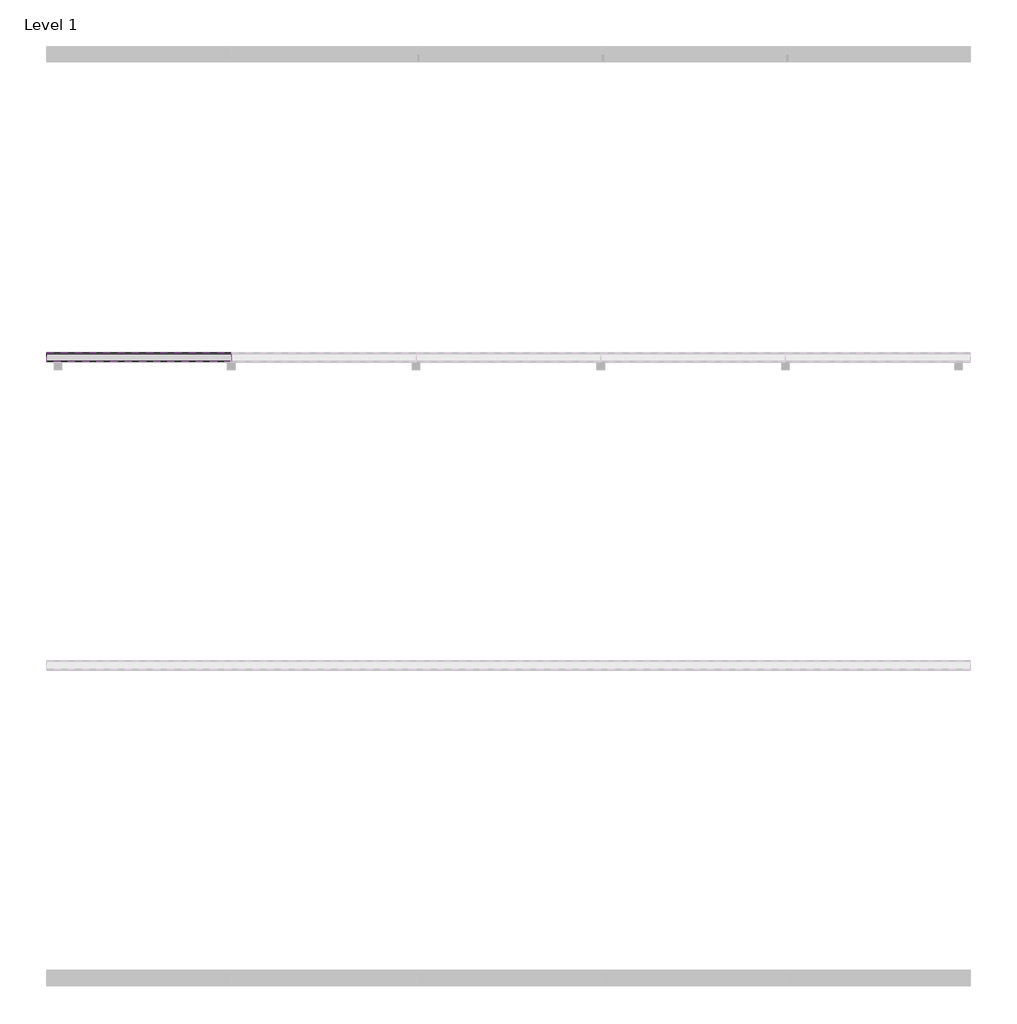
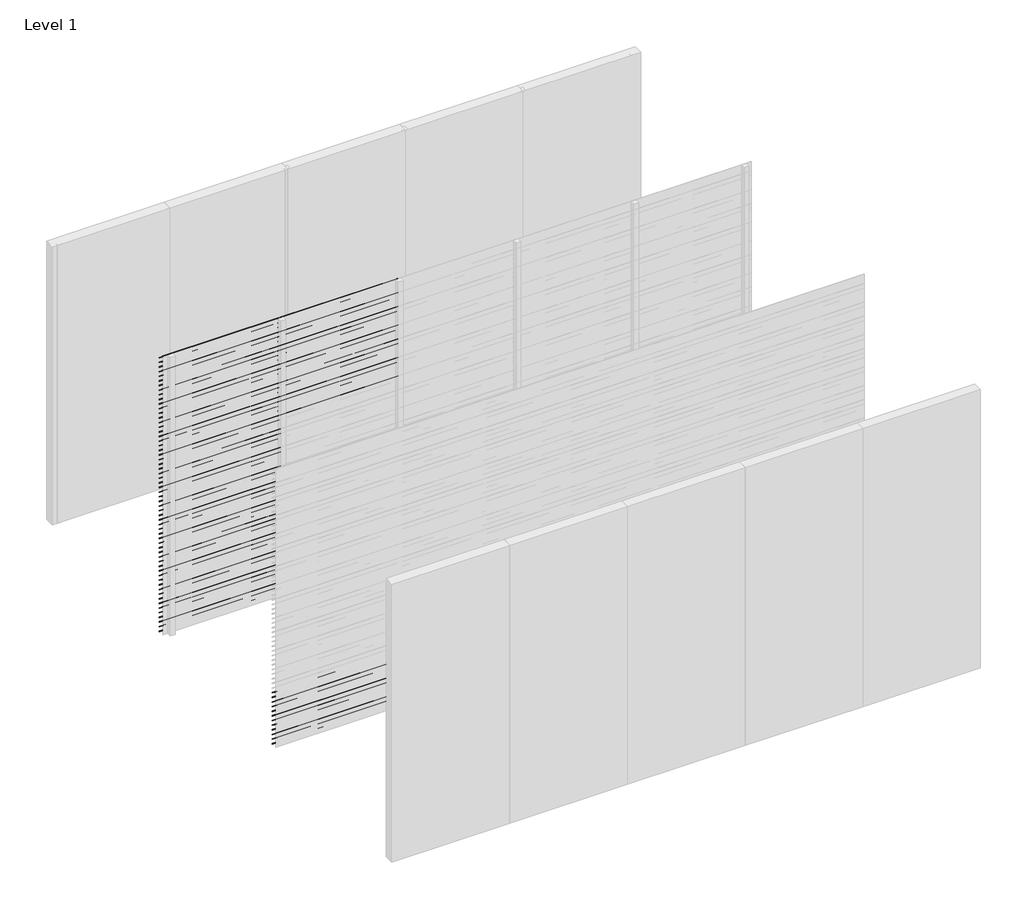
# One storey, part 10 of 16: 94 proxies.
"""IFC4 building model written with IfcOpenShell, lengths in millimetres."""

from ifc_helpers import new_model, si_unit, frame, origin, place, context, project, spatial, polyline, outline, extrude, element, save

model = new_model("IFC4")

# Units and contexts
model_context = context("Model", 3, world=origin())
ifc_project = project(units=[si_unit("LENGTHUNIT", "METRE", prefix="MILLI")], contexts=[model_context])

# Site, building, storey
site = spatial("IfcSite", under=ifc_project)
building = spatial("IfcBuilding", under=site)
storey = spatial("IfcBuildingStorey", under=building, Name="Level 1", Elevation=0.0)

# Proxies
placement = place(None, origin())
element("IfcBuildingElementProxy", 1, Name="Wall Sweeps", at=placement, inside=storey, context=model_context, shape_type="SweptSolid", body=[
    extrude(outline(polyline([(-5995.0, 3000.0), (-5995.0, 2998.0), (-5939.0, 2954.0), (-5939.0, 2946.0), (-5997.0, 2991.5714286), (-5997.0, 3000.0), (-5995.0, 3000.0)])), frame((0.0, 0.0, 0.0), z_axis=(1.0, 0.0, 0.0), x_axis=(0.0, 1.0, 0.0)), (0.0, 0.0, 1.0), 1200.0),
])
element("IfcBuildingElementProxy", 2, Name="Wall Sweeps", at=placement, inside=storey, context=model_context, shape_type="SweptSolid", body=[
    extrude(outline(polyline([(-5995.0, 2950.0), (-5995.0, 2948.0), (-5939.0, 2904.0), (-5939.0, 2896.0), (-5997.0, 2941.5714286), (-5997.0, 2950.0), (-5995.0, 2950.0)])), frame((0.0, 0.0, 0.0), z_axis=(1.0, 0.0, 0.0), x_axis=(0.0, 1.0, 0.0)), (0.0, 0.0, 1.0), 1200.0),
])
element("IfcBuildingElementProxy", 3, Name="Wall Sweeps", at=placement, inside=storey, context=model_context, shape_type="SweptSolid", body=[
    extrude(outline(polyline([(-5995.0, 2900.0), (-5995.0, 2898.0), (-5939.0, 2854.0), (-5939.0, 2846.0), (-5997.0, 2891.5714286), (-5997.0, 2900.0), (-5995.0, 2900.0)])), frame((0.0, 0.0, 0.0), z_axis=(1.0, 0.0, 0.0), x_axis=(0.0, 1.0, 0.0)), (0.0, 0.0, 1.0), 1200.0),
])
element("IfcBuildingElementProxy", 4, Name="Wall Sweeps", at=placement, inside=storey, context=model_context, shape_type="SweptSolid", body=[
    extrude(outline(polyline([(-5995.0, 2850.0), (-5995.0, 2848.0), (-5939.0, 2804.0), (-5939.0, 2796.0), (-5997.0, 2841.5714286), (-5997.0, 2850.0), (-5995.0, 2850.0)])), frame((0.0, 0.0, 0.0), z_axis=(1.0, 0.0, 0.0), x_axis=(0.0, 1.0, 0.0)), (0.0, 0.0, 1.0), 1200.0),
])
element("IfcBuildingElementProxy", 5, Name="Wall Sweeps", at=placement, inside=storey, context=model_context, shape_type="SweptSolid", body=[
    extrude(outline(polyline([(-5995.0, 2800.0), (-5995.0, 2798.0), (-5939.0, 2754.0), (-5939.0, 2746.0), (-5997.0, 2791.5714286), (-5997.0, 2800.0), (-5995.0, 2800.0)])), frame((0.0, 0.0, 0.0), z_axis=(1.0, 0.0, 0.0), x_axis=(0.0, 1.0, 0.0)), (0.0, 0.0, 1.0), 1200.0),
])
element("IfcBuildingElementProxy", 6, Name="Wall Sweeps", at=placement, inside=storey, context=model_context, shape_type="SweptSolid", body=[
    extrude(outline(polyline([(-5995.0, 2750.0), (-5995.0, 2748.0), (-5939.0, 2704.0), (-5939.0, 2696.0), (-5997.0, 2741.5714286), (-5997.0, 2750.0), (-5995.0, 2750.0)])), frame((0.0, 0.0, 0.0), z_axis=(1.0, 0.0, 0.0), x_axis=(0.0, 1.0, 0.0)), (0.0, 0.0, 1.0), 1200.0),
])
element("IfcBuildingElementProxy", 7, Name="Wall Sweeps", at=placement, inside=storey, context=model_context, shape_type="SweptSolid", body=[
    extrude(outline(polyline([(-5995.0, 2700.0), (-5995.0, 2698.0), (-5939.0, 2654.0), (-5939.0, 2646.0), (-5997.0, 2691.5714286), (-5997.0, 2700.0), (-5995.0, 2700.0)])), frame((0.0, 0.0, 0.0), z_axis=(1.0, 0.0, 0.0), x_axis=(0.0, 1.0, 0.0)), (0.0, 0.0, 1.0), 1200.0),
])
element("IfcBuildingElementProxy", 8, Name="Wall Sweeps", at=placement, inside=storey, context=model_context, shape_type="SweptSolid", body=[
    extrude(outline(polyline([(-5995.0, 2650.0), (-5995.0, 2648.0), (-5939.0, 2604.0), (-5939.0, 2596.0), (-5997.0, 2641.5714286), (-5997.0, 2650.0), (-5995.0, 2650.0)])), frame((0.0, 0.0, 0.0), z_axis=(1.0, 0.0, 0.0), x_axis=(0.0, 1.0, 0.0)), (0.0, 0.0, 1.0), 1200.0),
])
element("IfcBuildingElementProxy", 9, Name="Wall Sweeps", at=placement, inside=storey, context=model_context, shape_type="SweptSolid", body=[
    extrude(outline(polyline([(-5995.0, 2600.0), (-5995.0, 2598.0), (-5939.0, 2554.0), (-5939.0, 2546.0), (-5997.0, 2591.5714286), (-5997.0, 2600.0), (-5995.0, 2600.0)])), frame((0.0, 0.0, 0.0), z_axis=(1.0, 0.0, 0.0), x_axis=(0.0, 1.0, 0.0)), (0.0, 0.0, 1.0), 1200.0),
])
element("IfcBuildingElementProxy", 10, Name="Wall Sweeps", at=placement, inside=storey, context=model_context, shape_type="SweptSolid", body=[
    extrude(outline(polyline([(-5995.0, 2550.0), (-5995.0, 2548.0), (-5939.0, 2504.0), (-5939.0, 2496.0), (-5997.0, 2541.5714286), (-5997.0, 2550.0), (-5995.0, 2550.0)])), frame((0.0, 0.0, 0.0), z_axis=(1.0, 0.0, 0.0), x_axis=(0.0, 1.0, 0.0)), (0.0, 0.0, 1.0), 1200.0),
])
element("IfcBuildingElementProxy", 11, Name="Wall Sweeps", at=placement, inside=storey, context=model_context, shape_type="SweptSolid", body=[
    extrude(outline(polyline([(-5995.0, 2500.0), (-5995.0, 2498.0), (-5939.0, 2454.0), (-5939.0, 2446.0), (-5997.0, 2491.5714286), (-5997.0, 2500.0), (-5995.0, 2500.0)])), frame((0.0, 0.0, 0.0), z_axis=(1.0, 0.0, 0.0), x_axis=(0.0, 1.0, 0.0)), (0.0, 0.0, 1.0), 1200.0),
])
element("IfcBuildingElementProxy", 12, Name="Wall Sweeps", at=placement, inside=storey, context=model_context, shape_type="SweptSolid", body=[
    extrude(outline(polyline([(-5995.0, 2450.0), (-5995.0, 2448.0), (-5939.0, 2404.0), (-5939.0, 2396.0), (-5997.0, 2441.5714286), (-5997.0, 2450.0), (-5995.0, 2450.0)])), frame((0.0, 0.0, 0.0), z_axis=(1.0, 0.0, 0.0), x_axis=(0.0, 1.0, 0.0)), (0.0, 0.0, 1.0), 1200.0),
])
element("IfcBuildingElementProxy", 13, Name="Wall Sweeps", at=placement, inside=storey, context=model_context, shape_type="SweptSolid", body=[
    extrude(outline(polyline([(-5995.0, 2400.0), (-5995.0, 2398.0), (-5939.0, 2354.0), (-5939.0, 2346.0), (-5997.0, 2391.5714286), (-5997.0, 2400.0), (-5995.0, 2400.0)])), frame((0.0, 0.0, 0.0), z_axis=(1.0, 0.0, 0.0), x_axis=(0.0, 1.0, 0.0)), (0.0, 0.0, 1.0), 1200.0),
])
element("IfcBuildingElementProxy", 14, Name="Wall Sweeps", at=placement, inside=storey, context=model_context, shape_type="SweptSolid", body=[
    extrude(outline(polyline([(-5995.0, 2350.0), (-5995.0, 2348.0), (-5939.0, 2304.0), (-5939.0, 2296.0), (-5997.0, 2341.5714286), (-5997.0, 2350.0), (-5995.0, 2350.0)])), frame((0.0, 0.0, 0.0), z_axis=(1.0, 0.0, 0.0), x_axis=(0.0, 1.0, 0.0)), (0.0, 0.0, 1.0), 1200.0),
])
element("IfcBuildingElementProxy", 15, Name="Wall Sweeps", at=placement, inside=storey, context=model_context, shape_type="SweptSolid", body=[
    extrude(outline(polyline([(-5995.0, 2300.0), (-5995.0, 2298.0), (-5939.0, 2254.0), (-5939.0, 2246.0), (-5997.0, 2291.5714286), (-5997.0, 2300.0), (-5995.0, 2300.0)])), frame((0.0, 0.0, 0.0), z_axis=(1.0, 0.0, 0.0), x_axis=(0.0, 1.0, 0.0)), (0.0, 0.0, 1.0), 1200.0),
])
element("IfcBuildingElementProxy", 16, Name="Wall Sweeps", at=placement, inside=storey, context=model_context, shape_type="SweptSolid", body=[
    extrude(outline(polyline([(-5995.0, 2250.0), (-5995.0, 2248.0), (-5939.0, 2204.0), (-5939.0, 2196.0), (-5997.0, 2241.5714286), (-5997.0, 2250.0), (-5995.0, 2250.0)])), frame((0.0, 0.0, 0.0), z_axis=(1.0, 0.0, 0.0), x_axis=(0.0, 1.0, 0.0)), (0.0, 0.0, 1.0), 1200.0),
])
element("IfcBuildingElementProxy", 17, Name="Wall Sweeps", at=placement, inside=storey, context=model_context, shape_type="SweptSolid", body=[
    extrude(outline(polyline([(-5995.0, 2200.0), (-5995.0, 2198.0), (-5939.0, 2154.0), (-5939.0, 2146.0), (-5997.0, 2191.5714286), (-5997.0, 2200.0), (-5995.0, 2200.0)])), frame((0.0, 0.0, 0.0), z_axis=(1.0, 0.0, 0.0), x_axis=(0.0, 1.0, 0.0)), (0.0, 0.0, 1.0), 1200.0),
])
element("IfcBuildingElementProxy", 18, Name="Wall Sweeps", at=placement, inside=storey, context=model_context, shape_type="SweptSolid", body=[
    extrude(outline(polyline([(-5995.0, 2150.0), (-5995.0, 2148.0), (-5939.0, 2104.0), (-5939.0, 2096.0), (-5997.0, 2141.5714286), (-5997.0, 2150.0), (-5995.0, 2150.0)])), frame((0.0, 0.0, 0.0), z_axis=(1.0, 0.0, 0.0), x_axis=(0.0, 1.0, 0.0)), (0.0, 0.0, 1.0), 1200.0),
])
element("IfcBuildingElementProxy", 19, Name="Wall Sweeps", at=placement, inside=storey, context=model_context, shape_type="SweptSolid", body=[
    extrude(outline(polyline([(-5995.0, 2100.0), (-5995.0, 2098.0), (-5939.0, 2054.0), (-5939.0, 2046.0), (-5997.0, 2091.5714286), (-5997.0, 2100.0), (-5995.0, 2100.0)])), frame((0.0, 0.0, 0.0), z_axis=(1.0, 0.0, 0.0), x_axis=(0.0, 1.0, 0.0)), (0.0, 0.0, 1.0), 1200.0),
])
element("IfcBuildingElementProxy", 20, Name="Wall Sweeps", at=placement, inside=storey, context=model_context, shape_type="SweptSolid", body=[
    extrude(outline(polyline([(-5995.0, 2050.0), (-5995.0, 2048.0), (-5939.0, 2004.0), (-5939.0, 1996.0), (-5997.0, 2041.5714286), (-5997.0, 2050.0), (-5995.0, 2050.0)])), frame((0.0, 0.0, 0.0), z_axis=(1.0, 0.0, 0.0), x_axis=(0.0, 1.0, 0.0)), (0.0, 0.0, 1.0), 1200.0),
])
element("IfcBuildingElementProxy", 21, Name="Wall Sweeps", at=placement, inside=storey, context=model_context, shape_type="SweptSolid", body=[
    extrude(outline(polyline([(-5995.0, 2000.0), (-5995.0, 1998.0), (-5939.0, 1954.0), (-5939.0, 1946.0), (-5997.0, 1991.5714286), (-5997.0, 2000.0), (-5995.0, 2000.0)])), frame((0.0, 0.0, 0.0), z_axis=(1.0, 0.0, 0.0), x_axis=(0.0, 1.0, 0.0)), (0.0, 0.0, 1.0), 1200.0),
])
element("IfcBuildingElementProxy", 22, Name="Wall Sweeps", at=placement, inside=storey, context=model_context, shape_type="SweptSolid", body=[
    extrude(outline(polyline([(-5995.0, 1950.0), (-5995.0, 1948.0), (-5939.0, 1904.0), (-5939.0, 1896.0), (-5997.0, 1941.5714286), (-5997.0, 1950.0), (-5995.0, 1950.0)])), frame((0.0, 0.0, 0.0), z_axis=(1.0, 0.0, 0.0), x_axis=(0.0, 1.0, 0.0)), (0.0, 0.0, 1.0), 1200.0),
])
element("IfcBuildingElementProxy", 23, Name="Wall Sweeps", at=placement, inside=storey, context=model_context, shape_type="SweptSolid", body=[
    extrude(outline(polyline([(-5995.0, 1900.0), (-5995.0, 1898.0), (-5939.0, 1854.0), (-5939.0, 1846.0), (-5997.0, 1891.5714286), (-5997.0, 1900.0), (-5995.0, 1900.0)])), frame((0.0, 0.0, 0.0), z_axis=(1.0, 0.0, 0.0), x_axis=(0.0, 1.0, 0.0)), (0.0, 0.0, 1.0), 1200.0),
])
element("IfcBuildingElementProxy", 24, Name="Wall Sweeps", at=placement, inside=storey, context=model_context, shape_type="SweptSolid", body=[
    extrude(outline(polyline([(-5995.0, 1850.0), (-5995.0, 1848.0), (-5939.0, 1804.0), (-5939.0, 1796.0), (-5997.0, 1841.5714286), (-5997.0, 1850.0), (-5995.0, 1850.0)])), frame((0.0, 0.0, 0.0), z_axis=(1.0, 0.0, 0.0), x_axis=(0.0, 1.0, 0.0)), (0.0, 0.0, 1.0), 1200.0),
])
element("IfcBuildingElementProxy", 25, Name="Wall Sweeps", at=placement, inside=storey, context=model_context, shape_type="SweptSolid", body=[
    extrude(outline(polyline([(-5995.0, 1800.0), (-5995.0, 1798.0), (-5939.0, 1754.0), (-5939.0, 1746.0), (-5997.0, 1791.5714286), (-5997.0, 1800.0), (-5995.0, 1800.0)])), frame((0.0, 0.0, 0.0), z_axis=(1.0, 0.0, 0.0), x_axis=(0.0, 1.0, 0.0)), (0.0, 0.0, 1.0), 1200.0),
])
element("IfcBuildingElementProxy", 26, Name="Wall Sweeps", at=placement, inside=storey, context=model_context, shape_type="SweptSolid", body=[
    extrude(outline(polyline([(-5995.0, 1750.0), (-5995.0, 1748.0), (-5939.0, 1704.0), (-5939.0, 1696.0), (-5997.0, 1741.5714286), (-5997.0, 1750.0), (-5995.0, 1750.0)])), frame((0.0, 0.0, 0.0), z_axis=(1.0, 0.0, 0.0), x_axis=(0.0, 1.0, 0.0)), (0.0, 0.0, 1.0), 1200.0),
])
element("IfcBuildingElementProxy", 27, Name="Wall Sweeps", at=placement, inside=storey, context=model_context, shape_type="SweptSolid", body=[
    extrude(outline(polyline([(-5995.0, 1700.0), (-5995.0, 1698.0), (-5939.0, 1654.0), (-5939.0, 1646.0), (-5997.0, 1691.5714286), (-5997.0, 1700.0), (-5995.0, 1700.0)])), frame((0.0, 0.0, 0.0), z_axis=(1.0, 0.0, 0.0), x_axis=(0.0, 1.0, 0.0)), (0.0, 0.0, 1.0), 1200.0),
])
element("IfcBuildingElementProxy", 28, Name="Wall Sweeps", at=placement, inside=storey, context=model_context, shape_type="SweptSolid", body=[
    extrude(outline(polyline([(-5995.0, 1650.0), (-5995.0, 1648.0), (-5939.0, 1604.0), (-5939.0, 1596.0), (-5997.0, 1641.5714286), (-5997.0, 1650.0), (-5995.0, 1650.0)])), frame((0.0, 0.0, 0.0), z_axis=(1.0, 0.0, 0.0), x_axis=(0.0, 1.0, 0.0)), (0.0, 0.0, 1.0), 1200.0),
])
element("IfcBuildingElementProxy", 29, Name="Wall Sweeps", at=placement, inside=storey, context=model_context, shape_type="SweptSolid", body=[
    extrude(outline(polyline([(-5995.0, 1600.0), (-5995.0, 1598.0), (-5939.0, 1554.0), (-5939.0, 1546.0), (-5997.0, 1591.5714286), (-5997.0, 1600.0), (-5995.0, 1600.0)])), frame((0.0, 0.0, 0.0), z_axis=(1.0, 0.0, 0.0), x_axis=(0.0, 1.0, 0.0)), (0.0, 0.0, 1.0), 1200.0),
])
element("IfcBuildingElementProxy", 30, Name="Wall Sweeps", at=placement, inside=storey, context=model_context, shape_type="SweptSolid", body=[
    extrude(outline(polyline([(-5995.0, 1550.0), (-5995.0, 1548.0), (-5939.0, 1504.0), (-5939.0, 1496.0), (-5997.0, 1541.5714286), (-5997.0, 1550.0), (-5995.0, 1550.0)])), frame((0.0, 0.0, 0.0), z_axis=(1.0, 0.0, 0.0), x_axis=(0.0, 1.0, 0.0)), (0.0, 0.0, 1.0), 1200.0),
])
element("IfcBuildingElementProxy", 31, Name="Wall Sweeps", at=placement, inside=storey, context=model_context, shape_type="SweptSolid", body=[
    extrude(outline(polyline([(-5995.0, 1500.0), (-5995.0, 1498.0), (-5939.0, 1454.0), (-5939.0, 1446.0), (-5997.0, 1491.5714286), (-5997.0, 1500.0), (-5995.0, 1500.0)])), frame((0.0, 0.0, 0.0), z_axis=(1.0, 0.0, 0.0), x_axis=(0.0, 1.0, 0.0)), (0.0, 0.0, 1.0), 1200.0),
])
element("IfcBuildingElementProxy", 32, Name="Wall Sweeps", at=placement, inside=storey, context=model_context, shape_type="SweptSolid", body=[
    extrude(outline(polyline([(-5995.0, 1450.0), (-5995.0, 1448.0), (-5939.0, 1404.0), (-5939.0, 1396.0), (-5997.0, 1441.5714286), (-5997.0, 1450.0), (-5995.0, 1450.0)])), frame((0.0, 0.0, 0.0), z_axis=(1.0, 0.0, 0.0), x_axis=(0.0, 1.0, 0.0)), (0.0, 0.0, 1.0), 1200.0),
])
element("IfcBuildingElementProxy", 33, Name="Wall Sweeps", at=placement, inside=storey, context=model_context, shape_type="SweptSolid", body=[
    extrude(outline(polyline([(-5995.0, 1400.0), (-5995.0, 1398.0), (-5939.0, 1354.0), (-5939.0, 1346.0), (-5997.0, 1391.5714286), (-5997.0, 1400.0), (-5995.0, 1400.0)])), frame((0.0, 0.0, 0.0), z_axis=(1.0, 0.0, 0.0), x_axis=(0.0, 1.0, 0.0)), (0.0, 0.0, 1.0), 1200.0),
])
element("IfcBuildingElementProxy", 34, Name="Wall Sweeps", at=placement, inside=storey, context=model_context, shape_type="SweptSolid", body=[
    extrude(outline(polyline([(-5995.0, 1350.0), (-5995.0, 1348.0), (-5939.0, 1304.0), (-5939.0, 1296.0), (-5997.0, 1341.5714286), (-5997.0, 1350.0), (-5995.0, 1350.0)])), frame((0.0, 0.0, 0.0), z_axis=(1.0, 0.0, 0.0), x_axis=(0.0, 1.0, 0.0)), (0.0, 0.0, 1.0), 1200.0),
])
element("IfcBuildingElementProxy", 35, Name="Wall Sweeps", at=placement, inside=storey, context=model_context, shape_type="SweptSolid", body=[
    extrude(outline(polyline([(-5995.0, 1300.0), (-5995.0, 1298.0), (-5939.0, 1254.0), (-5939.0, 1246.0), (-5997.0, 1291.5714286), (-5997.0, 1300.0), (-5995.0, 1300.0)])), frame((0.0, 0.0, 0.0), z_axis=(1.0, 0.0, 0.0), x_axis=(0.0, 1.0, 0.0)), (0.0, 0.0, 1.0), 1200.0),
])
element("IfcBuildingElementProxy", 36, Name="Wall Sweeps", at=placement, inside=storey, context=model_context, shape_type="SweptSolid", body=[
    extrude(outline(polyline([(-5995.0, 1250.0), (-5995.0, 1248.0), (-5939.0, 1204.0), (-5939.0, 1196.0), (-5997.0, 1241.5714286), (-5997.0, 1250.0), (-5995.0, 1250.0)])), frame((0.0, 0.0, 0.0), z_axis=(1.0, 0.0, 0.0), x_axis=(0.0, 1.0, 0.0)), (0.0, 0.0, 1.0), 1200.0),
])
element("IfcBuildingElementProxy", 37, Name="Wall Sweeps", at=placement, inside=storey, context=model_context, shape_type="SweptSolid", body=[
    extrude(outline(polyline([(-5995.0, 1200.0), (-5995.0, 1198.0), (-5939.0, 1154.0), (-5939.0, 1146.0), (-5997.0, 1191.5714286), (-5997.0, 1200.0), (-5995.0, 1200.0)])), frame((0.0, 0.0, 0.0), z_axis=(1.0, 0.0, 0.0), x_axis=(0.0, 1.0, 0.0)), (0.0, 0.0, 1.0), 1200.0),
])
element("IfcBuildingElementProxy", 38, Name="Wall Sweeps", at=placement, inside=storey, context=model_context, shape_type="SweptSolid", body=[
    extrude(outline(polyline([(-5995.0, 1150.0), (-5995.0, 1148.0), (-5939.0, 1104.0), (-5939.0, 1096.0), (-5997.0, 1141.5714286), (-5997.0, 1150.0), (-5995.0, 1150.0)])), frame((0.0, 0.0, 0.0), z_axis=(1.0, 0.0, 0.0), x_axis=(0.0, 1.0, 0.0)), (0.0, 0.0, 1.0), 1200.0),
])
element("IfcBuildingElementProxy", 39, Name="Wall Sweeps", at=placement, inside=storey, context=model_context, shape_type="SweptSolid", body=[
    extrude(outline(polyline([(-5995.0, 1100.0), (-5995.0, 1098.0), (-5939.0, 1054.0), (-5939.0, 1046.0), (-5997.0, 1091.5714286), (-5997.0, 1100.0), (-5995.0, 1100.0)])), frame((0.0, 0.0, 0.0), z_axis=(1.0, 0.0, 0.0), x_axis=(0.0, 1.0, 0.0)), (0.0, 0.0, 1.0), 1200.0),
])
element("IfcBuildingElementProxy", 40, Name="Wall Sweeps", at=placement, inside=storey, context=model_context, shape_type="SweptSolid", body=[
    extrude(outline(polyline([(-5995.0, 1050.0), (-5995.0, 1048.0), (-5939.0, 1004.0), (-5939.0, 996.0), (-5997.0, 1041.5714286), (-5997.0, 1050.0), (-5995.0, 1050.0)])), frame((0.0, 0.0, 0.0), z_axis=(1.0, 0.0, 0.0), x_axis=(0.0, 1.0, 0.0)), (0.0, 0.0, 1.0), 1200.0),
])
element("IfcBuildingElementProxy", 41, Name="Wall Sweeps", at=placement, inside=storey, context=model_context, shape_type="SweptSolid", body=[
    extrude(outline(polyline([(-5995.0, 1000.0), (-5995.0, 998.0), (-5939.0, 954.0), (-5939.0, 946.0), (-5997.0, 991.5714286), (-5997.0, 1000.0), (-5995.0, 1000.0)])), frame((0.0, 0.0, 0.0), z_axis=(1.0, 0.0, 0.0), x_axis=(0.0, 1.0, 0.0)), (0.0, 0.0, 1.0), 1200.0),
])
element("IfcBuildingElementProxy", 42, Name="Wall Sweeps", at=placement, inside=storey, context=model_context, shape_type="SweptSolid", body=[
    extrude(outline(polyline([(-5995.0, 950.0), (-5995.0, 948.0), (-5939.0, 904.0), (-5939.0, 896.0), (-5997.0, 941.5714286), (-5997.0, 950.0), (-5995.0, 950.0)])), frame((0.0, 0.0, 0.0), z_axis=(1.0, 0.0, 0.0), x_axis=(0.0, 1.0, 0.0)), (0.0, 0.0, 1.0), 1200.0),
])
element("IfcBuildingElementProxy", 43, Name="Wall Sweeps", at=placement, inside=storey, context=model_context, shape_type="SweptSolid", body=[
    extrude(outline(polyline([(-5995.0, 900.0), (-5995.0, 898.0), (-5939.0, 854.0), (-5939.0, 846.0), (-5997.0, 891.5714286), (-5997.0, 900.0), (-5995.0, 900.0)])), frame((0.0, 0.0, 0.0), z_axis=(1.0, 0.0, 0.0), x_axis=(0.0, 1.0, 0.0)), (0.0, 0.0, 1.0), 1200.0),
])
element("IfcBuildingElementProxy", 44, Name="Wall Sweeps", at=placement, inside=storey, context=model_context, shape_type="SweptSolid", body=[
    extrude(outline(polyline([(-5995.0, 850.0), (-5995.0, 848.0), (-5939.0, 804.0), (-5939.0, 796.0), (-5997.0, 841.5714286), (-5997.0, 850.0), (-5995.0, 850.0)])), frame((0.0, 0.0, 0.0), z_axis=(1.0, 0.0, 0.0), x_axis=(0.0, 1.0, 0.0)), (0.0, 0.0, 1.0), 1200.0),
])
element("IfcBuildingElementProxy", 45, Name="Wall Sweeps", at=placement, inside=storey, context=model_context, shape_type="SweptSolid", body=[
    extrude(outline(polyline([(-5995.0, 800.0), (-5995.0, 798.0), (-5939.0, 754.0), (-5939.0, 746.0), (-5997.0, 791.5714286), (-5997.0, 800.0), (-5995.0, 800.0)])), frame((0.0, 0.0, 0.0), z_axis=(1.0, 0.0, 0.0), x_axis=(0.0, 1.0, 0.0)), (0.0, 0.0, 1.0), 1200.0),
])
element("IfcBuildingElementProxy", 46, Name="Wall Sweeps", at=placement, inside=storey, context=model_context, shape_type="SweptSolid", body=[
    extrude(outline(polyline([(-5995.0, 750.0), (-5995.0, 748.0), (-5939.0, 704.0), (-5939.0, 696.0), (-5997.0, 741.5714286), (-5997.0, 750.0), (-5995.0, 750.0)])), frame((0.0, 0.0, 0.0), z_axis=(1.0, 0.0, 0.0), x_axis=(0.0, 1.0, 0.0)), (0.0, 0.0, 1.0), 1200.0),
])
element("IfcBuildingElementProxy", 47, Name="Wall Sweeps", at=placement, inside=storey, context=model_context, shape_type="SweptSolid", body=[
    extrude(outline(polyline([(-5995.0, 700.0), (-5995.0, 698.0), (-5939.0, 654.0), (-5939.0, 646.0), (-5997.0, 691.5714286), (-5997.0, 700.0), (-5995.0, 700.0)])), frame((0.0, 0.0, 0.0), z_axis=(1.0, 0.0, 0.0), x_axis=(0.0, 1.0, 0.0)), (0.0, 0.0, 1.0), 1200.0),
])
element("IfcBuildingElementProxy", 48, Name="Wall Sweeps", at=placement, inside=storey, context=model_context, shape_type="SweptSolid", body=[
    extrude(outline(polyline([(-5995.0, 650.0), (-5995.0, 648.0), (-5939.0, 604.0), (-5939.0, 596.0), (-5997.0, 641.5714286), (-5997.0, 650.0), (-5995.0, 650.0)])), frame((0.0, 0.0, 0.0), z_axis=(1.0, 0.0, 0.0), x_axis=(0.0, 1.0, 0.0)), (0.0, 0.0, 1.0), 1200.0),
])
element("IfcBuildingElementProxy", 49, Name="Wall Sweeps", at=placement, inside=storey, context=model_context, shape_type="SweptSolid", body=[
    extrude(outline(polyline([(-5995.0, 600.0), (-5995.0, 598.0), (-5939.0, 554.0), (-5939.0, 546.0), (-5997.0, 591.5714286), (-5997.0, 600.0), (-5995.0, 600.0)])), frame((0.0, 0.0, 0.0), z_axis=(1.0, 0.0, 0.0), x_axis=(0.0, 1.0, 0.0)), (0.0, 0.0, 1.0), 1200.0),
])
element("IfcBuildingElementProxy", 50, Name="Wall Sweeps", at=placement, inside=storey, context=model_context, shape_type="SweptSolid", body=[
    extrude(outline(polyline([(-5995.0, 550.0), (-5995.0, 548.0), (-5939.0, 504.0), (-5939.0, 496.0), (-5997.0, 541.5714286), (-5997.0, 550.0), (-5995.0, 550.0)])), frame((0.0, 0.0, 0.0), z_axis=(1.0, 0.0, 0.0), x_axis=(0.0, 1.0, 0.0)), (0.0, 0.0, 1.0), 1200.0),
])
element("IfcBuildingElementProxy", 51, Name="Wall Sweeps", at=placement, inside=storey, context=model_context, shape_type="SweptSolid", body=[
    extrude(outline(polyline([(-5995.0, 500.0), (-5995.0, 498.0), (-5939.0, 454.0), (-5939.0, 446.0), (-5997.0, 491.5714286), (-5997.0, 500.0), (-5995.0, 500.0)])), frame((0.0, 0.0, 0.0), z_axis=(1.0, 0.0, 0.0), x_axis=(0.0, 1.0, 0.0)), (0.0, 0.0, 1.0), 1200.0),
])
element("IfcBuildingElementProxy", 52, Name="Wall Sweeps", at=placement, inside=storey, context=model_context, shape_type="SweptSolid", body=[
    extrude(outline(polyline([(-5995.0, 450.0), (-5995.0, 448.0), (-5939.0, 404.0), (-5939.0, 396.0), (-5997.0, 441.5714286), (-5997.0, 450.0), (-5995.0, 450.0)])), frame((0.0, 0.0, 0.0), z_axis=(1.0, 0.0, 0.0), x_axis=(0.0, 1.0, 0.0)), (0.0, 0.0, 1.0), 1200.0),
])
element("IfcBuildingElementProxy", 53, Name="Wall Sweeps", at=placement, inside=storey, context=model_context, shape_type="SweptSolid", body=[
    extrude(outline(polyline([(-5995.0, 400.0), (-5995.0, 398.0), (-5939.0, 354.0), (-5939.0, 346.0), (-5997.0, 391.5714286), (-5997.0, 400.0), (-5995.0, 400.0)])), frame((0.0, 0.0, 0.0), z_axis=(1.0, 0.0, 0.0), x_axis=(0.0, 1.0, 0.0)), (0.0, 0.0, 1.0), 1200.0),
])
element("IfcBuildingElementProxy", 54, Name="Wall Sweeps", at=placement, inside=storey, context=model_context, shape_type="SweptSolid", body=[
    extrude(outline(polyline([(-5995.0, 350.0), (-5995.0, 348.0), (-5939.0, 304.0), (-5939.0, 296.0), (-5997.0, 341.5714286), (-5997.0, 350.0), (-5995.0, 350.0)])), frame((0.0, 0.0, 0.0), z_axis=(1.0, 0.0, 0.0), x_axis=(0.0, 1.0, 0.0)), (0.0, 0.0, 1.0), 1200.0),
])
element("IfcBuildingElementProxy", 55, Name="Wall Sweeps", at=placement, inside=storey, context=model_context, shape_type="SweptSolid", body=[
    extrude(outline(polyline([(-5995.0, 300.0), (-5995.0, 298.0), (-5939.0, 254.0), (-5939.0, 246.0), (-5997.0, 291.5714286), (-5997.0, 300.0), (-5995.0, 300.0)])), frame((0.0, 0.0, 0.0), z_axis=(1.0, 0.0, 0.0), x_axis=(0.0, 1.0, 0.0)), (0.0, 0.0, 1.0), 1200.0),
])
element("IfcBuildingElementProxy", 56, Name="Wall Sweeps", at=placement, inside=storey, context=model_context, shape_type="SweptSolid", body=[
    extrude(outline(polyline([(-5995.0, 250.0), (-5995.0, 248.0), (-5939.0, 204.0), (-5939.0, 196.0), (-5997.0, 241.5714286), (-5997.0, 250.0), (-5995.0, 250.0)])), frame((0.0, 0.0, 0.0), z_axis=(1.0, 0.0, 0.0), x_axis=(0.0, 1.0, 0.0)), (0.0, 0.0, 1.0), 1200.0),
])
element("IfcBuildingElementProxy", 57, Name="Wall Sweeps", at=placement, inside=storey, context=model_context, shape_type="SweptSolid", body=[
    extrude(outline(polyline([(-5995.0, 200.0), (-5995.0, 198.0), (-5939.0, 154.0), (-5939.0, 146.0), (-5997.0, 191.5714286), (-5997.0, 200.0), (-5995.0, 200.0)])), frame((0.0, 0.0, 0.0), z_axis=(1.0, 0.0, 0.0), x_axis=(0.0, 1.0, 0.0)), (0.0, 0.0, 1.0), 1200.0),
])
element("IfcBuildingElementProxy", 58, Name="Wall Sweeps", at=placement, inside=storey, context=model_context, shape_type="SweptSolid", body=[
    extrude(outline(polyline([(-5995.0, 150.0), (-5995.0, 148.0), (-5939.0, 104.0), (-5939.0, 96.0), (-5997.0, 141.5714286), (-5997.0, 150.0), (-5995.0, 150.0)])), frame((0.0, 0.0, 0.0), z_axis=(1.0, 0.0, 0.0), x_axis=(0.0, 1.0, 0.0)), (0.0, 0.0, 1.0), 1200.0),
])
element("IfcBuildingElementProxy", 59, Name="Wall Sweeps", at=placement, inside=storey, context=model_context, shape_type="SweptSolid", body=[
    extrude(outline(polyline([(-5995.0, 100.0), (-5995.0, 98.0), (-5939.0, 54.0), (-5939.0, 46.0), (-5997.0, 91.5714286), (-5997.0, 100.0), (-5995.0, 100.0)])), frame((0.0, 0.0, 0.0), z_axis=(1.0, 0.0, 0.0), x_axis=(0.0, 1.0, 0.0)), (0.0, 0.0, 1.0), 1200.0),
])
element("IfcBuildingElementProxy", 60, Name="Wall Sweeps", at=placement, inside=storey, context=model_context, shape_type="SweptSolid", body=[
    extrude(outline(polyline([(-5995.0, 50.0), (-5995.0, 48.0), (-5939.0, 4.0), (-5939.0, -4.0), (-5997.0, 41.5714286), (-5997.0, 50.0), (-5995.0, 50.0)])), frame((0.0, 0.0, 0.0), z_axis=(1.0, 0.0, 0.0), x_axis=(0.0, 1.0, 0.0)), (0.0, 0.0, 1.0), 1200.0),
])
element("IfcBuildingElementProxy", 61, Name="Wall Sweeps", at=placement, inside=storey, context=model_context, shape_type="SweptSolid", body=[
    extrude(outline(polyline([(-5995.0, 3000.0), (-5995.0, 2998.0), (-5939.0, 2954.0), (-5939.0, 2946.0), (-5997.0, 2991.5714286), (-5997.0, 3000.0), (-5995.0, 3000.0)])), frame((1200.0, 0.0, 0.0), z_axis=(1.0, 0.0, 0.0), x_axis=(0.0, 1.0, 0.0)), (0.0, 0.0, 1.0), 1200.0),
])
element("IfcBuildingElementProxy", 62, Name="Wall Sweeps", at=placement, inside=storey, context=model_context, shape_type="SweptSolid", body=[
    extrude(outline(polyline([(-5995.0, 2950.0), (-5995.0, 2948.0), (-5939.0, 2904.0), (-5939.0, 2896.0), (-5997.0, 2941.5714286), (-5997.0, 2950.0), (-5995.0, 2950.0)])), frame((1200.0, 0.0, 0.0), z_axis=(1.0, 0.0, 0.0), x_axis=(0.0, 1.0, 0.0)), (0.0, 0.0, 1.0), 1200.0),
])
element("IfcBuildingElementProxy", 63, Name="Wall Sweeps", at=placement, inside=storey, context=model_context, shape_type="SweptSolid", body=[
    extrude(outline(polyline([(-5995.0, 2900.0), (-5995.0, 2898.0), (-5939.0, 2854.0), (-5939.0, 2846.0), (-5997.0, 2891.5714286), (-5997.0, 2900.0), (-5995.0, 2900.0)])), frame((1200.0, 0.0, 0.0), z_axis=(1.0, 0.0, 0.0), x_axis=(0.0, 1.0, 0.0)), (0.0, 0.0, 1.0), 1200.0),
])
element("IfcBuildingElementProxy", 64, Name="Wall Sweeps", at=placement, inside=storey, context=model_context, shape_type="SweptSolid", body=[
    extrude(outline(polyline([(-5995.0, 2850.0), (-5995.0, 2848.0), (-5939.0, 2804.0), (-5939.0, 2796.0), (-5997.0, 2841.5714286), (-5997.0, 2850.0), (-5995.0, 2850.0)])), frame((1200.0, 0.0, 0.0), z_axis=(1.0, 0.0, 0.0), x_axis=(0.0, 1.0, 0.0)), (0.0, 0.0, 1.0), 1200.0),
])
element("IfcBuildingElementProxy", 65, Name="Wall Sweeps", at=placement, inside=storey, context=model_context, shape_type="SweptSolid", body=[
    extrude(outline(polyline([(-5995.0, 2800.0), (-5995.0, 2798.0), (-5939.0, 2754.0), (-5939.0, 2746.0), (-5997.0, 2791.5714286), (-5997.0, 2800.0), (-5995.0, 2800.0)])), frame((1200.0, 0.0, 0.0), z_axis=(1.0, 0.0, 0.0), x_axis=(0.0, 1.0, 0.0)), (0.0, 0.0, 1.0), 1200.0),
])
element("IfcBuildingElementProxy", 66, Name="Wall Sweeps", at=placement, inside=storey, context=model_context, shape_type="SweptSolid", body=[
    extrude(outline(polyline([(-5995.0, 2750.0), (-5995.0, 2748.0), (-5939.0, 2704.0), (-5939.0, 2696.0), (-5997.0, 2741.5714286), (-5997.0, 2750.0), (-5995.0, 2750.0)])), frame((1200.0, 0.0, 0.0), z_axis=(1.0, 0.0, 0.0), x_axis=(0.0, 1.0, 0.0)), (0.0, 0.0, 1.0), 1200.0),
])
element("IfcBuildingElementProxy", 67, Name="Wall Sweeps", at=placement, inside=storey, context=model_context, shape_type="SweptSolid", body=[
    extrude(outline(polyline([(-5995.0, 2700.0), (-5995.0, 2698.0), (-5939.0, 2654.0), (-5939.0, 2646.0), (-5997.0, 2691.5714286), (-5997.0, 2700.0), (-5995.0, 2700.0)])), frame((1200.0, 0.0, 0.0), z_axis=(1.0, 0.0, 0.0), x_axis=(0.0, 1.0, 0.0)), (0.0, 0.0, 1.0), 1200.0),
])
element("IfcBuildingElementProxy", 68, Name="Wall Sweeps", at=placement, inside=storey, context=model_context, shape_type="SweptSolid", body=[
    extrude(outline(polyline([(-5995.0, 2650.0), (-5995.0, 2648.0), (-5939.0, 2604.0), (-5939.0, 2596.0), (-5997.0, 2641.5714286), (-5997.0, 2650.0), (-5995.0, 2650.0)])), frame((1200.0, 0.0, 0.0), z_axis=(1.0, 0.0, 0.0), x_axis=(0.0, 1.0, 0.0)), (0.0, 0.0, 1.0), 1200.0),
])
element("IfcBuildingElementProxy", 69, Name="Wall Sweeps", at=placement, inside=storey, context=model_context, shape_type="SweptSolid", body=[
    extrude(outline(polyline([(-5995.0, 2600.0), (-5995.0, 2598.0), (-5939.0, 2554.0), (-5939.0, 2546.0), (-5997.0, 2591.5714286), (-5997.0, 2600.0), (-5995.0, 2600.0)])), frame((1200.0, 0.0, 0.0), z_axis=(1.0, 0.0, 0.0), x_axis=(0.0, 1.0, 0.0)), (0.0, 0.0, 1.0), 1200.0),
])
element("IfcBuildingElementProxy", 70, Name="Wall Sweeps", at=placement, inside=storey, context=model_context, shape_type="SweptSolid", body=[
    extrude(outline(polyline([(-5995.0, 2550.0), (-5995.0, 2548.0), (-5939.0, 2504.0), (-5939.0, 2496.0), (-5997.0, 2541.5714286), (-5997.0, 2550.0), (-5995.0, 2550.0)])), frame((1200.0, 0.0, 0.0), z_axis=(1.0, 0.0, 0.0), x_axis=(0.0, 1.0, 0.0)), (0.0, 0.0, 1.0), 1200.0),
])
element("IfcBuildingElementProxy", 71, Name="Wall Sweeps", at=placement, inside=storey, context=model_context, shape_type="SweptSolid", body=[
    extrude(outline(polyline([(-5995.0, 2500.0), (-5995.0, 2498.0), (-5939.0, 2454.0), (-5939.0, 2446.0), (-5997.0, 2491.5714286), (-5997.0, 2500.0), (-5995.0, 2500.0)])), frame((1200.0, 0.0, 0.0), z_axis=(1.0, 0.0, 0.0), x_axis=(0.0, 1.0, 0.0)), (0.0, 0.0, 1.0), 1200.0),
])
element("IfcBuildingElementProxy", 72, Name="Wall Sweeps", at=placement, inside=storey, context=model_context, shape_type="SweptSolid", body=[
    extrude(outline(polyline([(-5995.0, 2450.0), (-5995.0, 2448.0), (-5939.0, 2404.0), (-5939.0, 2396.0), (-5997.0, 2441.5714286), (-5997.0, 2450.0), (-5995.0, 2450.0)])), frame((1200.0, 0.0, 0.0), z_axis=(1.0, 0.0, 0.0), x_axis=(0.0, 1.0, 0.0)), (0.0, 0.0, 1.0), 1200.0),
])
element("IfcBuildingElementProxy", 73, Name="Wall Sweeps", at=placement, inside=storey, context=model_context, shape_type="SweptSolid", body=[
    extrude(outline(polyline([(-5995.0, 2400.0), (-5995.0, 2398.0), (-5939.0, 2354.0), (-5939.0, 2346.0), (-5997.0, 2391.5714286), (-5997.0, 2400.0), (-5995.0, 2400.0)])), frame((1200.0, 0.0, 0.0), z_axis=(1.0, 0.0, 0.0), x_axis=(0.0, 1.0, 0.0)), (0.0, 0.0, 1.0), 1200.0),
])
element("IfcBuildingElementProxy", 74, Name="Wall Sweeps", at=placement, inside=storey, context=model_context, shape_type="SweptSolid", body=[
    extrude(outline(polyline([(-5995.0, 2350.0), (-5995.0, 2348.0), (-5939.0, 2304.0), (-5939.0, 2296.0), (-5997.0, 2341.5714286), (-5997.0, 2350.0), (-5995.0, 2350.0)])), frame((1200.0, 0.0, 0.0), z_axis=(1.0, 0.0, 0.0), x_axis=(0.0, 1.0, 0.0)), (0.0, 0.0, 1.0), 1200.0),
])
element("IfcBuildingElementProxy", 75, Name="Wall Sweeps", at=placement, inside=storey, context=model_context, shape_type="SweptSolid", body=[
    extrude(outline(polyline([(-5995.0, 2300.0), (-5995.0, 2298.0), (-5939.0, 2254.0), (-5939.0, 2246.0), (-5997.0, 2291.5714286), (-5997.0, 2300.0), (-5995.0, 2300.0)])), frame((1200.0, 0.0, 0.0), z_axis=(1.0, 0.0, 0.0), x_axis=(0.0, 1.0, 0.0)), (0.0, 0.0, 1.0), 1200.0),
])
element("IfcBuildingElementProxy", 76, Name="Wall Sweeps", at=placement, inside=storey, context=model_context, shape_type="SweptSolid", body=[
    extrude(outline(polyline([(-5995.0, 2250.0), (-5995.0, 2248.0), (-5939.0, 2204.0), (-5939.0, 2196.0), (-5997.0, 2241.5714286), (-5997.0, 2250.0), (-5995.0, 2250.0)])), frame((1200.0, 0.0, 0.0), z_axis=(1.0, 0.0, 0.0), x_axis=(0.0, 1.0, 0.0)), (0.0, 0.0, 1.0), 1200.0),
])
element("IfcBuildingElementProxy", 77, Name="Wall Sweeps", at=placement, inside=storey, context=model_context, shape_type="SweptSolid", body=[
    extrude(outline(polyline([(-5995.0, 2200.0), (-5995.0, 2198.0), (-5939.0, 2154.0), (-5939.0, 2146.0), (-5997.0, 2191.5714286), (-5997.0, 2200.0), (-5995.0, 2200.0)])), frame((1200.0, 0.0, 0.0), z_axis=(1.0, 0.0, 0.0), x_axis=(0.0, 1.0, 0.0)), (0.0, 0.0, 1.0), 1200.0),
])
element("IfcBuildingElementProxy", 78, Name="Wall Sweeps", at=placement, inside=storey, context=model_context, shape_type="SweptSolid", body=[
    extrude(outline(polyline([(-5995.0, 2150.0), (-5995.0, 2148.0), (-5939.0, 2104.0), (-5939.0, 2096.0), (-5997.0, 2141.5714286), (-5997.0, 2150.0), (-5995.0, 2150.0)])), frame((1200.0, 0.0, 0.0), z_axis=(1.0, 0.0, 0.0), x_axis=(0.0, 1.0, 0.0)), (0.0, 0.0, 1.0), 1200.0),
])
element("IfcBuildingElementProxy", 79, Name="Wall Sweeps", at=placement, inside=storey, context=model_context, shape_type="SweptSolid", body=[
    extrude(outline(polyline([(-5995.0, 2100.0), (-5995.0, 2098.0), (-5939.0, 2054.0), (-5939.0, 2046.0), (-5997.0, 2091.5714286), (-5997.0, 2100.0), (-5995.0, 2100.0)])), frame((1200.0, 0.0, 0.0), z_axis=(1.0, 0.0, 0.0), x_axis=(0.0, 1.0, 0.0)), (0.0, 0.0, 1.0), 1200.0),
])
element("IfcBuildingElementProxy", 80, Name="Wall Sweeps", at=placement, inside=storey, context=model_context, shape_type="SweptSolid", body=[
    extrude(outline(polyline([(-5995.0, 2050.0), (-5995.0, 2048.0), (-5939.0, 2004.0), (-5939.0, 1996.0), (-5997.0, 2041.5714286), (-5997.0, 2050.0), (-5995.0, 2050.0)])), frame((1200.0, 0.0, 0.0), z_axis=(1.0, 0.0, 0.0), x_axis=(0.0, 1.0, 0.0)), (0.0, 0.0, 1.0), 1200.0),
])
element("IfcBuildingElementProxy", 81, Name="Wall Sweeps", at=placement, inside=storey, context=model_context, shape_type="SweptSolid", body=[
    extrude(outline(polyline([(-5995.0, 2000.0), (-5995.0, 1998.0), (-5939.0, 1954.0), (-5939.0, 1946.0), (-5997.0, 1991.5714286), (-5997.0, 2000.0), (-5995.0, 2000.0)])), frame((1200.0, 0.0, 0.0), z_axis=(1.0, 0.0, 0.0), x_axis=(0.0, 1.0, 0.0)), (0.0, 0.0, 1.0), 1200.0),
])
element("IfcBuildingElementProxy", 82, Name="Wall Sweeps", at=placement, inside=storey, context=model_context, shape_type="SweptSolid", body=[
    extrude(outline(polyline([(-5995.0, 1950.0), (-5995.0, 1948.0), (-5939.0, 1904.0), (-5939.0, 1896.0), (-5997.0, 1941.5714286), (-5997.0, 1950.0), (-5995.0, 1950.0)])), frame((1200.0, 0.0, 0.0), z_axis=(1.0, 0.0, 0.0), x_axis=(0.0, 1.0, 0.0)), (0.0, 0.0, 1.0), 1200.0),
])
element("IfcBuildingElementProxy", 83, Name="Wall Sweeps", at=placement, inside=storey, context=model_context, shape_type="SweptSolid", body=[
    extrude(outline(polyline([(-7995.0, 600.0), (-7995.0, 598.0), (-7939.0, 554.0), (-7939.0, 546.0), (-7997.0, 591.5714286), (-7997.0, 600.0), (-7995.0, 600.0)])), frame((0.0, 0.0, 0.0), z_axis=(1.0, 0.0, 0.0), x_axis=(0.0, 1.0, 0.0)), (0.0, 0.0, 1.0), 6000.0),
])
element("IfcBuildingElementProxy", 84, Name="Wall Sweeps", at=placement, inside=storey, context=model_context, shape_type="SweptSolid", body=[
    extrude(outline(polyline([(-7995.0, 550.0), (-7995.0, 548.0), (-7939.0, 504.0), (-7939.0, 496.0), (-7997.0, 541.5714286), (-7997.0, 550.0), (-7995.0, 550.0)])), frame((0.0, 0.0, 0.0), z_axis=(1.0, 0.0, 0.0), x_axis=(0.0, 1.0, 0.0)), (0.0, 0.0, 1.0), 6000.0),
])
element("IfcBuildingElementProxy", 85, Name="Wall Sweeps", at=placement, inside=storey, context=model_context, shape_type="SweptSolid", body=[
    extrude(outline(polyline([(-7995.0, 500.0), (-7995.0, 498.0), (-7939.0, 454.0), (-7939.0, 446.0), (-7997.0, 491.5714286), (-7997.0, 500.0), (-7995.0, 500.0)])), frame((0.0, 0.0, 0.0), z_axis=(1.0, 0.0, 0.0), x_axis=(0.0, 1.0, 0.0)), (0.0, 0.0, 1.0), 6000.0),
])
element("IfcBuildingElementProxy", 86, Name="Wall Sweeps", at=placement, inside=storey, context=model_context, shape_type="SweptSolid", body=[
    extrude(outline(polyline([(-7995.0, 450.0), (-7995.0, 448.0), (-7939.0, 404.0), (-7939.0, 396.0), (-7997.0, 441.5714286), (-7997.0, 450.0), (-7995.0, 450.0)])), frame((0.0, 0.0, 0.0), z_axis=(1.0, 0.0, 0.0), x_axis=(0.0, 1.0, 0.0)), (0.0, 0.0, 1.0), 6000.0),
])
element("IfcBuildingElementProxy", 87, Name="Wall Sweeps", at=placement, inside=storey, context=model_context, shape_type="SweptSolid", body=[
    extrude(outline(polyline([(-7995.0, 400.0), (-7995.0, 398.0), (-7939.0, 354.0), (-7939.0, 346.0), (-7997.0, 391.5714286), (-7997.0, 400.0), (-7995.0, 400.0)])), frame((0.0, 0.0, 0.0), z_axis=(1.0, 0.0, 0.0), x_axis=(0.0, 1.0, 0.0)), (0.0, 0.0, 1.0), 6000.0),
])
element("IfcBuildingElementProxy", 88, Name="Wall Sweeps", at=placement, inside=storey, context=model_context, shape_type="SweptSolid", body=[
    extrude(outline(polyline([(-7995.0, 350.0), (-7995.0, 348.0), (-7939.0, 304.0), (-7939.0, 296.0), (-7997.0, 341.5714286), (-7997.0, 350.0), (-7995.0, 350.0)])), frame((0.0, 0.0, 0.0), z_axis=(1.0, 0.0, 0.0), x_axis=(0.0, 1.0, 0.0)), (0.0, 0.0, 1.0), 6000.0),
])
element("IfcBuildingElementProxy", 89, Name="Wall Sweeps", at=placement, inside=storey, context=model_context, shape_type="SweptSolid", body=[
    extrude(outline(polyline([(-7995.0, 300.0), (-7995.0, 298.0), (-7939.0, 254.0), (-7939.0, 246.0), (-7997.0, 291.5714286), (-7997.0, 300.0), (-7995.0, 300.0)])), frame((0.0, 0.0, 0.0), z_axis=(1.0, 0.0, 0.0), x_axis=(0.0, 1.0, 0.0)), (0.0, 0.0, 1.0), 6000.0),
])
element("IfcBuildingElementProxy", 90, Name="Wall Sweeps", at=placement, inside=storey, context=model_context, shape_type="SweptSolid", body=[
    extrude(outline(polyline([(-7995.0, 250.0), (-7995.0, 248.0), (-7939.0, 204.0), (-7939.0, 196.0), (-7997.0, 241.5714286), (-7997.0, 250.0), (-7995.0, 250.0)])), frame((0.0, 0.0, 0.0), z_axis=(1.0, 0.0, 0.0), x_axis=(0.0, 1.0, 0.0)), (0.0, 0.0, 1.0), 6000.0),
])
element("IfcBuildingElementProxy", 91, Name="Wall Sweeps", at=placement, inside=storey, context=model_context, shape_type="SweptSolid", body=[
    extrude(outline(polyline([(-7995.0, 200.0), (-7995.0, 198.0), (-7939.0, 154.0), (-7939.0, 146.0), (-7997.0, 191.5714286), (-7997.0, 200.0), (-7995.0, 200.0)])), frame((0.0, 0.0, 0.0), z_axis=(1.0, 0.0, 0.0), x_axis=(0.0, 1.0, 0.0)), (0.0, 0.0, 1.0), 6000.0),
])
element("IfcBuildingElementProxy", 92, Name="Wall Sweeps", at=placement, inside=storey, context=model_context, shape_type="SweptSolid", body=[
    extrude(outline(polyline([(-7995.0, 150.0), (-7995.0, 148.0), (-7939.0, 104.0), (-7939.0, 96.0), (-7997.0, 141.5714286), (-7997.0, 150.0), (-7995.0, 150.0)])), frame((0.0, 0.0, 0.0), z_axis=(1.0, 0.0, 0.0), x_axis=(0.0, 1.0, 0.0)), (0.0, 0.0, 1.0), 6000.0),
])
element("IfcBuildingElementProxy", 93, Name="Wall Sweeps", at=placement, inside=storey, context=model_context, shape_type="SweptSolid", body=[
    extrude(outline(polyline([(-7995.0, 100.0), (-7995.0, 98.0), (-7939.0, 54.0), (-7939.0, 46.0), (-7997.0, 91.5714286), (-7997.0, 100.0), (-7995.0, 100.0)])), frame((0.0, 0.0, 0.0), z_axis=(1.0, 0.0, 0.0), x_axis=(0.0, 1.0, 0.0)), (0.0, 0.0, 1.0), 6000.0),
])
element("IfcBuildingElementProxy", 94, Name="Wall Sweeps", at=placement, inside=storey, context=model_context, shape_type="SweptSolid", body=[
    extrude(outline(polyline([(-7995.0, 50.0), (-7995.0, 48.0), (-7939.0, 4.0), (-7939.0, -4.0), (-7997.0, 41.5714286), (-7997.0, 50.0), (-7995.0, 50.0)])), frame((0.0, 0.0, 0.0), z_axis=(1.0, 0.0, 0.0), x_axis=(0.0, 1.0, 0.0)), (0.0, 0.0, 1.0), 6000.0),
])

save(model, "model.ifc")
